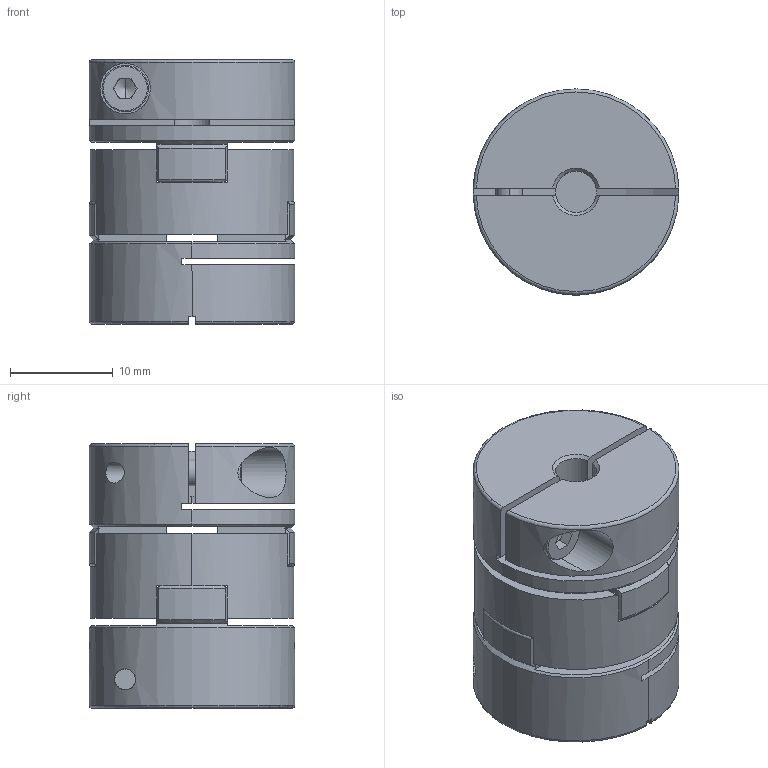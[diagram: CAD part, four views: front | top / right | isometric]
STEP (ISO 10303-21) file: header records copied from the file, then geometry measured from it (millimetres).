
FILE_DESCRIPTION (( 'STEP AP203' ), '1' );
FILE_NAME ('SOH-20C-4X8_203.STEP', '2013-01-20T05:34:32', ( '' ), ( '' ), 'SwSTEP 2.0', 'SolidWorks 2012', '' );
FILE_SCHEMA (( 'CONFIG_CONTROL_DESIGN' ));
Length unit declared in the file: millimetre
Products named in the file (1): SOH-20C-4X8_203
Bounding box: 20 x 20 x 25.7 mm (x, y, z)
Volume: 6284.9 mm3; surface area: 4776.2 mm2
Topology: 1 solids, 1 shells, 210 faces, 589 edges, 367 vertices
Faces by surface type: plane 96, cylinder 65, cone 25, torus 24
Entity records: 7207 total; most frequent: CARTESIAN_POINT 1724, ORIENTED_EDGE 1170, DIRECTION 1118, EDGE_CURVE 585, AXIS2_PLACEMENT_3D 417, VERTEX_POINT 367, LINE 284, VECTOR 284
